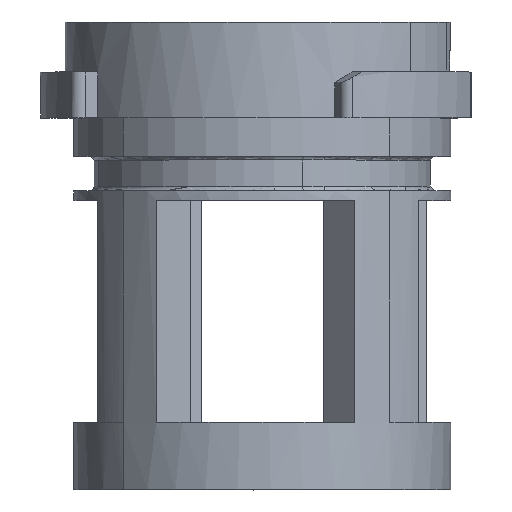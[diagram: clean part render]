
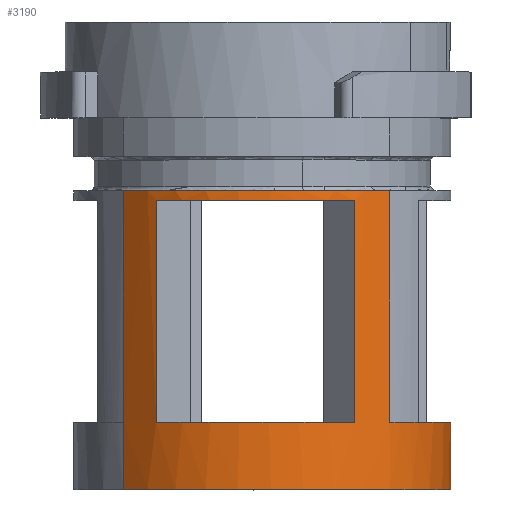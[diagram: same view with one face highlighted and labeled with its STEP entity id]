
A CAD part, top view. The second image highlights one B-rep face of the part: STEP entity #3190.
In plain terms, the highlighted cylindrical face has radius 9.85 mm (diameter 19.7 mm), a partial arc.
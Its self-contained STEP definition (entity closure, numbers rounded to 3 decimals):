
#2431=AXIS2_PLACEMENT_3D('Cylinder Axis2P3D',#2428,#2429,#2430) ;
#2647=AXIS2_PLACEMENT_3D('Circle Axis2P3D',#2645,#2646,$) ;
#2689=AXIS2_PLACEMENT_3D('Circle Axis2P3D',#2687,#2688,$) ;
#3134=AXIS2_PLACEMENT_3D('Circle Axis2P3D',#3132,#3133,$) ;
#3148=AXIS2_PLACEMENT_3D('Circle Axis2P3D',#3146,#3147,$) ;
#3160=AXIS2_PLACEMENT_3D('Circle Axis2P3D',#3158,#3159,$) ;
#3165=AXIS2_PLACEMENT_3D('Circle Axis2P3D',#3163,#3164,$) ;
#3181=AXIS2_PLACEMENT_3D('Circle Axis2P3D',#3179,#3180,$) ;
#2428=CARTESIAN_POINT('Axis2P3D Location',(0.,-371.105,-70.486)) ;
#2642=CARTESIAN_POINT('Vertex',(8.142,-377.305,-64.943)) ;
#2645=CARTESIAN_POINT('Axis2P3D Location',(0.,-377.305,-70.486)) ;
#2649=CARTESIAN_POINT('Vertex',(8.586,-377.305,-75.313)) ;
#2668=CARTESIAN_POINT('Vertex',(4.826,-377.305,-61.9)) ;
#2684=CARTESIAN_POINT('Vertex',(-5.544,-377.305,-62.345)) ;
#2687=CARTESIAN_POINT('Axis2P3D Location',(0.,-377.305,-70.486)) ;
#2711=CARTESIAN_POINT('Line Origine',(4.826,-372.005,-61.9)) ;
#2715=CARTESIAN_POINT('Vertex',(4.826,-365.705,-61.9)) ;
#2746=CARTESIAN_POINT('Vertex',(-5.544,-365.705,-62.345)) ;
#2749=CARTESIAN_POINT('Line Origine',(-5.544,-372.005,-62.345)) ;
#2855=CARTESIAN_POINT('Vertex',(7.257,-377.305,-77.147)) ;
#2858=CARTESIAN_POINT('Line Origine',(7.257,-371.105,-77.147)) ;
#2862=CARTESIAN_POINT('Vertex',(7.257,-380.805,-77.147)) ;
#2869=CARTESIAN_POINT('Vertex',(-7.257,-380.805,-63.826)) ;
#2872=CARTESIAN_POINT('Line Origine',(-7.257,-371.105,-63.826)) ;
#2876=CARTESIAN_POINT('Vertex',(-7.257,-377.305,-63.826)) ;
#3132=CARTESIAN_POINT('Axis2P3D Location',(0.,-377.305,-70.486)) ;
#3136=CARTESIAN_POINT('Vertex',(6.66,-377.305,-63.229)) ;
#3139=CARTESIAN_POINT('Line Origine',(6.66,-371.105,-63.229)) ;
#3143=CARTESIAN_POINT('Vertex',(6.66,-365.205,-63.229)) ;
#3146=CARTESIAN_POINT('Axis2P3D Location',(0.,-365.205,-70.486)) ;
#3150=CARTESIAN_POINT('Vertex',(-7.257,-365.205,-63.826)) ;
#3153=CARTESIAN_POINT('Line Origine',(-7.257,-371.105,-63.826)) ;
#3158=CARTESIAN_POINT('Axis2P3D Location',(0.,-380.805,-70.486)) ;
#3163=CARTESIAN_POINT('Axis2P3D Location',(0.,-377.305,-70.486)) ;
#3179=CARTESIAN_POINT('Axis2P3D Location',(0.,-365.705,-70.486)) ;
#2429=DIRECTION('Axis2P3D Direction',(0.,-1.,0.)) ;
#2430=DIRECTION('Axis2P3D XDirection',(0.737,0.,-0.676)) ;
#2646=DIRECTION('Axis2P3D Direction',(0.,-1.,0.)) ;
#2688=DIRECTION('Axis2P3D Direction',(0.,-1.,0.)) ;
#2712=DIRECTION('Vector Direction',(0.,1.,0.)) ;
#2750=DIRECTION('Vector Direction',(0.,1.,0.)) ;
#2859=DIRECTION('Vector Direction',(0.,-1.,0.)) ;
#2873=DIRECTION('Vector Direction',(0.,-1.,0.)) ;
#3133=DIRECTION('Axis2P3D Direction',(0.,-1.,0.)) ;
#3140=DIRECTION('Vector Direction',(0.,-1.,0.)) ;
#3147=DIRECTION('Axis2P3D Direction',(0.,-1.,0.)) ;
#3154=DIRECTION('Vector Direction',(0.,-1.,0.)) ;
#3159=DIRECTION('Axis2P3D Direction',(0.,-1.,0.)) ;
#3164=DIRECTION('Axis2P3D Direction',(0.,-1.,0.)) ;
#3180=DIRECTION('Axis2P3D Direction',(0.,-1.,0.)) ;
#2713=VECTOR('Line Direction',#2712,1.) ;
#2751=VECTOR('Line Direction',#2750,1.) ;
#2860=VECTOR('Line Direction',#2859,1.) ;
#2874=VECTOR('Line Direction',#2873,1.) ;
#3141=VECTOR('Line Direction',#3140,1.) ;
#3155=VECTOR('Line Direction',#3154,1.) ;
#3169=ORIENTED_EDGE('',*,*,#3138,.T.) ;
#3170=ORIENTED_EDGE('',*,*,#3145,.F.) ;
#3171=ORIENTED_EDGE('',*,*,#3152,.T.) ;
#3172=ORIENTED_EDGE('',*,*,#3157,.T.) ;
#3173=ORIENTED_EDGE('',*,*,#2878,.F.) ;
#3174=ORIENTED_EDGE('',*,*,#3162,.F.) ;
#3175=ORIENTED_EDGE('',*,*,#2864,.T.) ;
#3176=ORIENTED_EDGE('',*,*,#3167,.T.) ;
#3177=ORIENTED_EDGE('',*,*,#2651,.F.) ;
#3185=ORIENTED_EDGE('',*,*,#2691,.F.) ;
#3186=ORIENTED_EDGE('',*,*,#2753,.T.) ;
#3187=ORIENTED_EDGE('',*,*,#3183,.F.) ;
#3188=ORIENTED_EDGE('',*,*,#2717,.T.) ;
#3189=FACE_BOUND('',#3184,.T.) ;
#3190=ADVANCED_FACE('\X2\987690E85BC65C01652F64915708\X0\.1\\\X2\96F64EF651E04F554F53\X0\',(#3178,#3189),#2432,.T.) ;
#2648=CIRCLE('generated circle',#2647,9.85) ;
#2690=CIRCLE('generated circle',#2689,9.85) ;
#3135=CIRCLE('generated circle',#3134,9.85) ;
#3149=CIRCLE('generated circle',#3148,9.85) ;
#3161=CIRCLE('generated circle',#3160,9.85) ;
#3166=CIRCLE('generated circle',#3165,9.85) ;
#3182=CIRCLE('generated circle',#3181,9.85) ;
#2432=CYLINDRICAL_SURFACE('generated cylinder',#2431,9.85) ;
#2651=EDGE_CURVE('',#2643,#2650,#2648,.F.) ;
#2691=EDGE_CURVE('',#2685,#2669,#2690,.F.) ;
#2717=EDGE_CURVE('',#2716,#2669,#2714,.F.) ;
#2753=EDGE_CURVE('',#2685,#2747,#2752,.T.) ;
#2864=EDGE_CURVE('',#2863,#2856,#2861,.F.) ;
#2878=EDGE_CURVE('',#2870,#2877,#2875,.F.) ;
#3138=EDGE_CURVE('',#2643,#3137,#3135,.T.) ;
#3145=EDGE_CURVE('',#3144,#3137,#3142,.T.) ;
#3152=EDGE_CURVE('',#3144,#3151,#3149,.T.) ;
#3157=EDGE_CURVE('',#3151,#2877,#3156,.T.) ;
#3162=EDGE_CURVE('',#2863,#2870,#3161,.T.) ;
#3167=EDGE_CURVE('',#2856,#2650,#3166,.T.) ;
#3183=EDGE_CURVE('',#2716,#2747,#3182,.T.) ;
#3168=EDGE_LOOP('',(#3169,#3170,#3171,#3172,#3173,#3174,#3175,#3176,#3177)) ;
#3184=EDGE_LOOP('',(#3185,#3186,#3187,#3188)) ;
#3178=FACE_OUTER_BOUND('',#3168,.T.) ;
#2714=LINE('Line',#2711,#2713) ;
#2752=LINE('Line',#2749,#2751) ;
#2861=LINE('Line',#2858,#2860) ;
#2875=LINE('Line',#2872,#2874) ;
#3142=LINE('Line',#3139,#3141) ;
#3156=LINE('Line',#3153,#3155) ;
#2643=VERTEX_POINT('',#2642) ;
#2650=VERTEX_POINT('',#2649) ;
#2669=VERTEX_POINT('',#2668) ;
#2685=VERTEX_POINT('',#2684) ;
#2716=VERTEX_POINT('',#2715) ;
#2747=VERTEX_POINT('',#2746) ;
#2856=VERTEX_POINT('',#2855) ;
#2863=VERTEX_POINT('',#2862) ;
#2870=VERTEX_POINT('',#2869) ;
#2877=VERTEX_POINT('',#2876) ;
#3137=VERTEX_POINT('',#3136) ;
#3144=VERTEX_POINT('',#3143) ;
#3151=VERTEX_POINT('',#3150) ;
